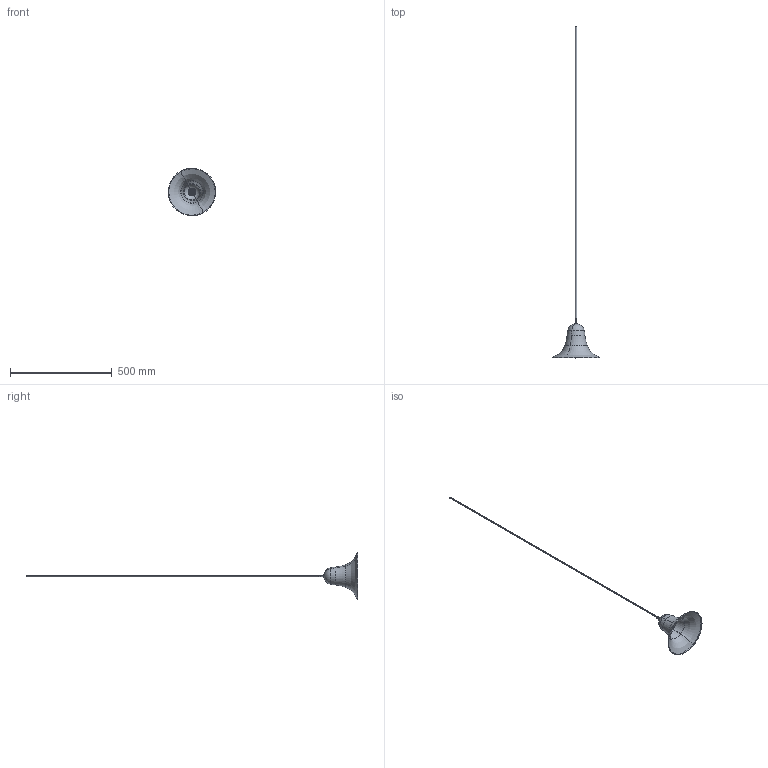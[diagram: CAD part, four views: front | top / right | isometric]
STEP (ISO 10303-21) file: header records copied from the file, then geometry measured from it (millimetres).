
FILE_DESCRIPTION (( 'STEP AP214' ), '1' );
FILE_NAME ('Pantop Ø23,3 Pendant.STEP', '2024-04-03T10:11:17', ( '' ), ( '' ), 'SwSTEP 2.0', 'SolidWorks 2022', '' );
FILE_SCHEMA (( 'AUTOMOTIVE_DESIGN' ));
Length unit declared in the file: millimetre
Products named in the file (8): Plastic grommet protector - Throw out part; Cable protector top; All E14 and E12 sockets_16 51700 E14 socket, white, plain, TP FPL; Pantop Ø23,3 Pendant; Cable dummy - straight - 2_100; Pantop shade ø23,3cm; Strain relif with lazer ingraveing; All plastic set screws_123262 M6x10 Black plastic
Assembly tree (7 placements, depth 2):
  Pantop Ø23,3 Pendant
    Strain relif with lazer ingraveing
    All E14 and E12 sockets_16 51700 E14 socket, white, plain, TP FPL
    Cable protector top
    Pantop shade ø23,3cm
    Cable dummy - straight - 2_100
    All plastic set screws_123262 M6x10 Black plastic
    Plastic grommet protector - Throw out part
Bounding box: 233 x 1629.95 x 233 mm (x, y, z)
Volume: 148908.7 mm3; surface area: 203293 mm2
Topology: 8 solids, 8 shells, 543 faces, 1505 edges, 988 vertices
Faces by surface type: bspline 412, cylinder 55, torus 40, plane 30, cone 6
Entity records: 26302 total; most frequent: CARTESIAN_POINT 14689, ORIENTED_EDGE 3006, EDGE_CURVE 1503, DIRECTION 1081, VERTEX_POINT 986, B_SPLINE_CURVE_WITH_KNOTS 855, EDGE_LOOP 565, FACE_OUTER_BOUND 543
